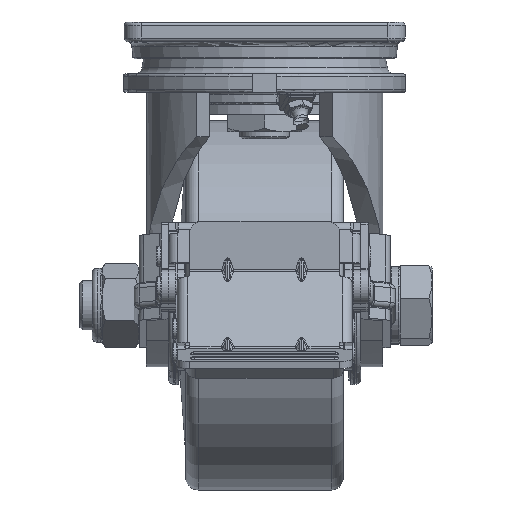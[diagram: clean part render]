
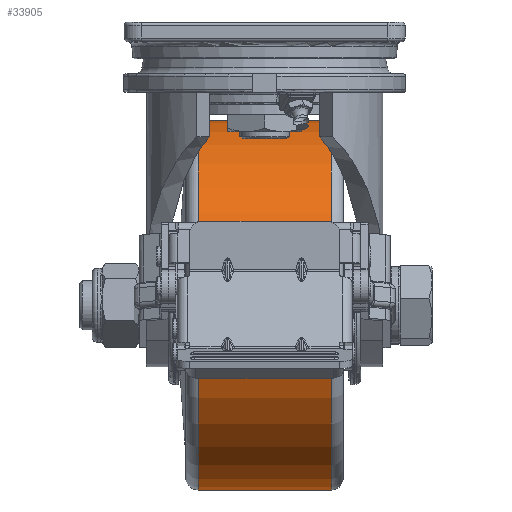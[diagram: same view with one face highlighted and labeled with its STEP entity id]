
A CAD part, left-side view. The second image highlights one B-rep face of the part: STEP entity #33905.
In plain terms, the highlighted cylindrical face has radius 75 mm (diameter 150 mm), a full revolution.
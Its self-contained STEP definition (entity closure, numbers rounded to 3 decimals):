
#2803=LINE('',#48656,#5396);
#5396=VECTOR('',#39483,75.);
#7921=CYLINDRICAL_SURFACE('',#36053,75.);
#8514=FACE_OUTER_BOUND('',#10548,.T.);
#10548=EDGE_LOOP('',(#23338,#23339,#23340,#23341,#23342,#23343));
#12739=CIRCLE('',#36026,75.);
#12740=CIRCLE('',#36027,75.);
#12754=CIRCLE('',#36050,75.);
#12755=CIRCLE('',#36051,75.);
#14357=VERTEX_POINT('',#48604);
#14358=VERTEX_POINT('',#48606);
#14372=VERTEX_POINT('',#48650);
#14373=VERTEX_POINT('',#48651);
#17828=EDGE_CURVE('',#14357,#14358,#12739,.T.);
#17829=EDGE_CURVE('',#14358,#14357,#12740,.T.);
#17849=EDGE_CURVE('',#14372,#14373,#12754,.T.);
#17850=EDGE_CURVE('',#14373,#14372,#12755,.T.);
#17852=EDGE_CURVE('',#14358,#14372,#2803,.T.);
#23338=ORIENTED_EDGE('',*,*,#17829,.F.);
#23339=ORIENTED_EDGE('',*,*,#17852,.T.);
#23340=ORIENTED_EDGE('',*,*,#17849,.T.);
#23341=ORIENTED_EDGE('',*,*,#17850,.T.);
#23342=ORIENTED_EDGE('',*,*,#17852,.F.);
#23343=ORIENTED_EDGE('',*,*,#17828,.F.);
#33905=ADVANCED_FACE('',(#8514),#7921,.T.);
#36026=AXIS2_PLACEMENT_3D('',#48607,#39421,#39422);
#36027=AXIS2_PLACEMENT_3D('',#48608,#39423,#39424);
#36050=AXIS2_PLACEMENT_3D('',#48652,#39475,#39476);
#36051=AXIS2_PLACEMENT_3D('',#48653,#39477,#39478);
#36053=AXIS2_PLACEMENT_3D('',#48655,#39481,#39482);
#39421=DIRECTION('center_axis',(0.,-1.,0.));
#39422=DIRECTION('ref_axis',(1.,0.,0.));
#39423=DIRECTION('center_axis',(0.,-1.,0.));
#39424=DIRECTION('ref_axis',(1.,0.,0.));
#39475=DIRECTION('center_axis',(0.,-1.,0.));
#39476=DIRECTION('ref_axis',(1.,0.,0.));
#39477=DIRECTION('center_axis',(0.,-1.,0.));
#39478=DIRECTION('ref_axis',(1.,0.,0.));
#39481=DIRECTION('center_axis',(0.,-1.,0.));
#39482=DIRECTION('ref_axis',(0.,0.,1.));
#39483=DIRECTION('',(0.,1.,0.));
#48604=CARTESIAN_POINT('',(52.,-27.,-10.));
#48606=CARTESIAN_POINT('',(52.,-27.,-160.));
#48607=CARTESIAN_POINT('Origin',(52.,-27.,-85.));
#48608=CARTESIAN_POINT('Origin',(52.,-27.,-85.));
#48650=CARTESIAN_POINT('',(52.,27.,-160.));
#48651=CARTESIAN_POINT('',(52.,27.,-10.));
#48652=CARTESIAN_POINT('Origin',(52.,27.,-85.));
#48653=CARTESIAN_POINT('Origin',(52.,27.,-85.));
#48655=CARTESIAN_POINT('Origin',(52.,0.,
-85.));
#48656=CARTESIAN_POINT('',(52.,0.,-160.));
